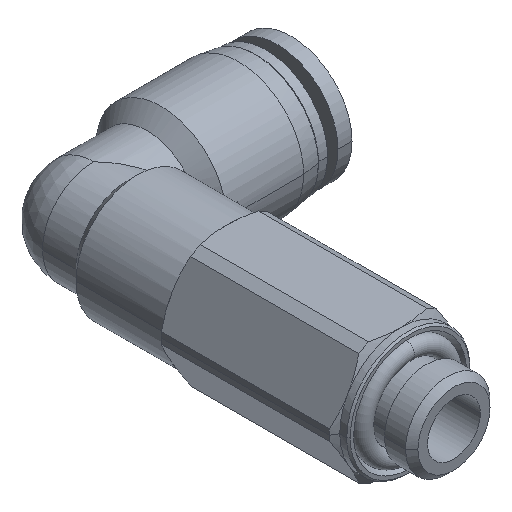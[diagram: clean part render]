
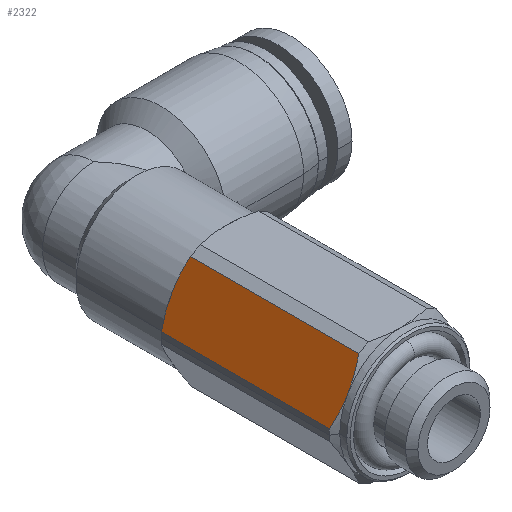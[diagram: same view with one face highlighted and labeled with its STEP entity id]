
A CAD part, isometric view. The second image highlights one B-rep face of the part: STEP entity #2322.
In plain terms, the highlighted planar face has unit normal (-0.866, 0, 0.5).
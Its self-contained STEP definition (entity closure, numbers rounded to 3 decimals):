
#35 = CARTESIAN_POINT ( 'NONE',  ( -6.062, -20., 3.5 ) ) ;
#71 = CARTESIAN_POINT ( 'NONE',  ( -6.943, -0.126, 1.975 ) ) ;
#192 = CARTESIAN_POINT ( 'NONE',  ( -6.062, 0., 3.5 ) ) ;
#209 = CARTESIAN_POINT ( 'NONE',  ( -7.725, -0.433, 0.62 ) ) ;
#364 = VERTEX_POINT ( 'NONE', #1756 ) ;
#508 = CARTESIAN_POINT ( 'NONE',  ( -4.399, -0.433, 6.38 ) ) ;
#524 = CARTESIAN_POINT ( 'NONE',  ( -5.287, -0.098, 4.842 ) ) ;
#566 = CARTESIAN_POINT ( 'NONE',  ( -5.927, 0., 3.735 ) ) ;
#699 = CARTESIAN_POINT ( 'NONE',  ( -7.153, -0.191, 1.61 ) ) ;
#715 = EDGE_CURVE ( 'NONE', #2940, #3777, #1408, .T. ) ;
#922 = CARTESIAN_POINT ( 'NONE',  ( -5.591, -0.036, 4.316 ) ) ;
#957 = CARTESIAN_POINT ( 'NONE',  ( -4.399, -6.811, 6.38 ) ) ;
#1037 = CARTESIAN_POINT ( 'NONE',  ( -7.437, -0.298, 1.119 ) ) ;
#1044 = CARTESIAN_POINT ( 'NONE',  ( -7.146, -19.822, 1.623 ) ) ;
#1051 = ORIENTED_EDGE ( 'NONE', *, *, #2378, .T. ) ;
#1118 = CARTESIAN_POINT ( 'NONE',  ( -4.694, -19.713, 5.869 ) ) ;
#1136 = AXIS2_PLACEMENT_3D ( 'NONE', #4371, #4283, #2656 ) ;
#1179 = CARTESIAN_POINT ( 'NONE',  ( -4.979, -19.822, 5.377 ) ) ;
#1201 = CARTESIAN_POINT ( 'NONE',  ( -6.906, -0.116, 2.038 ) ) ;
#1207 = CARTESIAN_POINT ( 'NONE',  ( -4.971, -0.18, 5.39 ) ) ;
#1252 = CARTESIAN_POINT ( 'NONE',  ( -5.792, -0.009, 3.967 ) ) ;
#1402 = EDGE_CURVE ( 'NONE', #2300, #1559, #1892, .T. ) ;
#1408 = B_SPLINE_CURVE_WITH_KNOTS ( 'NONE', 3,
 ( #2923, #1530, #957, #508 ),
 .UNSPECIFIED., .F., .F.,
 ( 4, 4 ),
 ( 0., 1. ),
 .UNSPECIFIED. ) ;
#1412 = CARTESIAN_POINT ( 'NONE',  ( -7.048, -0.157, 1.793 ) ) ;
#1434 = B_SPLINE_CURVE_WITH_KNOTS ( 'NONE', 3,
 ( #2913, #566, #1252, #922, #2208, #3338, #2954, #4270, #524, #1207, #1633, #2572 ),
 .UNSPECIFIED., .F., .F.,
 ( 4, 2, 2, 2, 2, 4 ),
 ( 0., 0.25, 0.375, 0.437, 0.5, 1. ),
 .UNSPECIFIED. ) ;
#1482 = CARTESIAN_POINT ( 'NONE',  ( -7.725, -0.433, 0.62 ) ) ;
#1495 = CARTESIAN_POINT ( 'NONE',  ( -5.796, -20., 3.961 ) ) ;
#1510 = CARTESIAN_POINT ( 'NONE',  ( -4.399, -19.567, 6.38 ) ) ;
#1520 = CARTESIAN_POINT ( 'NONE',  ( -7.725, -13.189, 0.62 ) ) ;
#1530 = CARTESIAN_POINT ( 'NONE',  ( -4.399, -13.189, 6.38 ) ) ;
#1559 = VERTEX_POINT ( 'NONE', #1957 ) ;
#1633 = CARTESIAN_POINT ( 'NONE',  ( -4.69, -0.289, 5.876 ) ) ;
#1751 = B_SPLINE_CURVE_WITH_KNOTS ( 'NONE', 3,
 ( #3750, #2739, #1044, #4149, #3121, #35 ),
 .UNSPECIFIED., .F., .F.,
 ( 4, 2, 4 ),
 ( 0., 0.5, 1. ),
 .UNSPECIFIED. ) ;
#1756 = CARTESIAN_POINT ( 'NONE',  ( -6.062, -20., 3.5 ) ) ;
#1792 = B_SPLINE_CURVE_WITH_KNOTS ( 'NONE', 3,
 ( #3156, #1495, #2546, #1179, #1118, #2839 ),
 .UNSPECIFIED., .F., .F.,
 ( 4, 2, 4 ),
 ( 0., 0.5, 1. ),
 .UNSPECIFIED. ) ;
#1801 = ORIENTED_EDGE ( 'NONE', *, *, #2014, .F. ) ;
#1819 = EDGE_LOOP ( 'NONE', ( #1801, #2358, #2458, #1051, #1958, #2876 ) ) ;
#1892 = B_SPLINE_CURVE_WITH_KNOTS ( 'NONE', 3,
 ( #3116, #4097, #1037, #2398, #699, #1412, #3764, #71, #1201, #3237, #4265, #192 ),
 .UNSPECIFIED., .F., .F.,
 ( 4, 2, 2, 2, 2, 4 ),
 ( 0., 0.25, 0.375, 0.437, 0.5, 1. ),
 .UNSPECIFIED. ) ;
#1957 = CARTESIAN_POINT ( 'NONE',  ( -6.062, 0., 3.5 ) ) ;
#1958 = ORIENTED_EDGE ( 'NONE', *, *, #3988, .T. ) ;
#2014 = EDGE_CURVE ( 'NONE', #1559, #3777, #1434, .T. ) ;
#2048 = B_SPLINE_CURVE_WITH_KNOTS ( 'NONE', 3,
 ( #1482, #2843, #1520, #4206 ),
 .UNSPECIFIED., .F., .F.,
 ( 4, 4 ),
 ( 0., 1. ),
 .UNSPECIFIED. ) ;
#2208 = CARTESIAN_POINT ( 'NONE',  ( -5.523, -0.047, 4.433 ) ) ;
#2281 = CARTESIAN_POINT ( 'NONE',  ( -4.399, -0.433, 6.38 ) ) ;
#2300 = VERTEX_POINT ( 'NONE', #209 ) ;
#2322 = ADVANCED_FACE ( 'NONE', ( #2966 ), #3623, .T. ) ;
#2358 = ORIENTED_EDGE ( 'NONE', *, *, #1402, .F. ) ;
#2378 = EDGE_CURVE ( 'NONE', #3925, #364, #1751, .T. ) ;
#2398 = CARTESIAN_POINT ( 'NONE',  ( -7.224, -0.216, 1.487 ) ) ;
#2458 = ORIENTED_EDGE ( 'NONE', *, *, #4369, .T. ) ;
#2546 = CARTESIAN_POINT ( 'NONE',  ( -5.526, -19.964, 4.429 ) ) ;
#2572 = CARTESIAN_POINT ( 'NONE',  ( -4.399, -0.433, 6.38 ) ) ;
#2656 = DIRECTION ( 'NONE',  ( 0., 1., 0. ) ) ;
#2739 = CARTESIAN_POINT ( 'NONE',  ( -7.43, -19.713, 1.13 ) ) ;
#2839 = CARTESIAN_POINT ( 'NONE',  ( -4.399, -19.567, 6.38 ) ) ;
#2843 = CARTESIAN_POINT ( 'NONE',  ( -7.725, -6.811, 0.62 ) ) ;
#2876 = ORIENTED_EDGE ( 'NONE', *, *, #715, .T. ) ;
#2913 = CARTESIAN_POINT ( 'NONE',  ( -6.062, 0., 3.5 ) ) ;
#2923 = CARTESIAN_POINT ( 'NONE',  ( -4.399, -19.567, 6.38 ) ) ;
#2940 = VERTEX_POINT ( 'NONE', #1510 ) ;
#2954 = CARTESIAN_POINT ( 'NONE',  ( -5.388, -0.074, 4.667 ) ) ;
#2966 = FACE_OUTER_BOUND ( 'NONE', #1819, .T. ) ;
#3116 = CARTESIAN_POINT ( 'NONE',  ( -7.725, -0.433, 0.62 ) ) ;
#3121 = CARTESIAN_POINT ( 'NONE',  ( -6.329, -20., 3.038 ) ) ;
#3156 = CARTESIAN_POINT ( 'NONE',  ( -6.062, -20., 3.5 ) ) ;
#3237 = CARTESIAN_POINT ( 'NONE',  ( -6.599, -0.036, 2.571 ) ) ;
#3338 = CARTESIAN_POINT ( 'NONE',  ( -5.422, -0.067, 4.608 ) ) ;
#3623 = PLANE ( 'NONE',  #1136 ) ;
#3750 = CARTESIAN_POINT ( 'NONE',  ( -7.725, -19.567, 0.62 ) ) ;
#3764 = CARTESIAN_POINT ( 'NONE',  ( -7.013, -0.146, 1.853 ) ) ;
#3777 = VERTEX_POINT ( 'NONE', #2281 ) ;
#3925 = VERTEX_POINT ( 'NONE', #4140 ) ;
#3988 = EDGE_CURVE ( 'NONE', #364, #2940, #1792, .T. ) ;
#4097 = CARTESIAN_POINT ( 'NONE',  ( -7.58, -0.361, 0.872 ) ) ;
#4140 = CARTESIAN_POINT ( 'NONE',  ( -7.725, -19.567, 0.62 ) ) ;
#4149 = CARTESIAN_POINT ( 'NONE',  ( -6.599, -19.964, 2.571 ) ) ;
#4206 = CARTESIAN_POINT ( 'NONE',  ( -7.725, -19.567, 0.62 ) ) ;
#4265 = CARTESIAN_POINT ( 'NONE',  ( -6.333, 0., 3.03 ) ) ;
#4270 = CARTESIAN_POINT ( 'NONE',  ( -5.32, -0.09, 4.785 ) ) ;
#4283 = DIRECTION ( 'NONE',  ( -0.866, 0., 0.5 ) ) ;
#4369 = EDGE_CURVE ( 'NONE', #2300, #3925, #2048, .T. ) ;
#4371 = CARTESIAN_POINT ( 'NONE',  ( -8.083, 0., 0. ) ) ;
